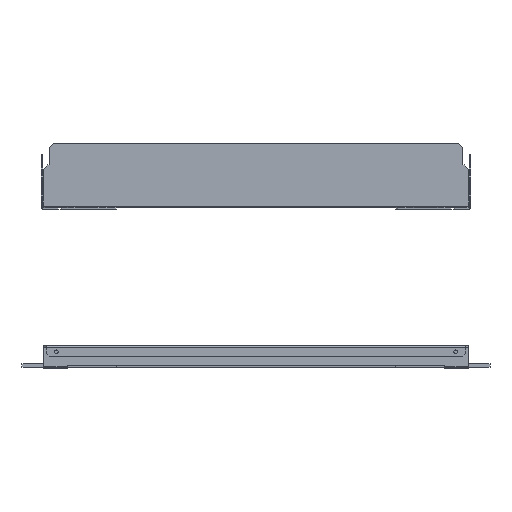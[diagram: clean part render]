
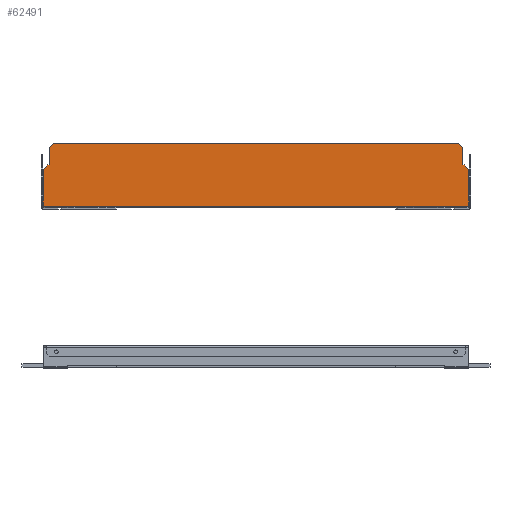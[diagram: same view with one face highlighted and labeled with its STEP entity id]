
A CAD part, front view. The second image highlights one B-rep face of the part: STEP entity #62491.
In plain terms, the highlighted planar face has unit normal (0, -1, 0).
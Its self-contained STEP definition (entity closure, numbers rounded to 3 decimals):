
#60746=CARTESIAN_POINT(' ',(247.5,-1.5,0.6));
#60747=VERTEX_POINT(' ',#60746);
#60761=CARTESIAN_POINT(' ',(247.5,-1.5,0.6));
#60766=DIRECTION(' ',(-1.,0.,0.));
#60771=VECTOR(' ',#60766,1.);
#60776=LINE('',#60761,#60771);
#60781=CARTESIAN_POINT(' ',(-247.5,-1.5,0.6));
#60782=VERTEX_POINT(' ',#60781);
#60786=EDGE_CURVE(' ',#60747,#60782,#60776,.T.);
#60926=CARTESIAN_POINT(' ',(247.5,-1.5,43.5));
#60927=VERTEX_POINT(' ',#60926);
#60941=CARTESIAN_POINT(' ',(247.5,-1.5,43.5));
#60946=DIRECTION(' ',(0.,0.,-1.));
#60951=VECTOR(' ',#60946,1.);
#60956=LINE('',#60941,#60951);
#60961=EDGE_CURVE(' ',#60927,#60747,#60956,.T.);
#62101=DIRECTION(' ',(0.,-1.,0.));
#62106=CARTESIAN_POINT(' ',(-247.5,-1.5,73.5));
#62111=DIRECTION(' ',(0.,0.,-1.));
#62116=AXIS2_PLACEMENT_3D(' ',#62106,#62101,#62111);
#62121=PLANE('NONE',#62116);
#62126=ORIENTED_EDGE(' ',*,*,#60961,.F.);
#62131=CARTESIAN_POINT(' ',(247.5,-1.5,43.5));
#62136=DIRECTION(' ',(-0.707,0.,0.707));
#62141=VECTOR(' ',#62136,1.);
#62146=LINE('',#62131,#62141);
#62151=CARTESIAN_POINT(' ',(242.5,-1.5,48.5));
#62152=VERTEX_POINT(' ',#62151);
#62156=EDGE_CURVE(' ',#60927,#62152,#62146,.T.);
#62161=ORIENTED_EDGE(' ',*,*,#62156,.T.);
#62166=CARTESIAN_POINT(' ',(240.5,-1.5,48.5));
#62171=DIRECTION(' ',(1.,0.,0.));
#62176=VECTOR(' ',#62171,1.);
#62181=LINE('',#62166,#62176);
#62186=CARTESIAN_POINT(' ',(240.5,-1.5,48.5));
#62187=VERTEX_POINT(' ',#62186);
#62191=EDGE_CURVE(' ',#62187,#62152,#62181,.T.);
#62196=ORIENTED_EDGE(' ',*,*,#62191,.F.);
#62201=CARTESIAN_POINT(' ',(240.5,-1.5,48.5));
#62206=DIRECTION(' ',(0.,0.,1.));
#62211=VECTOR(' ',#62206,1.);
#62216=LINE('',#62201,#62211);
#62221=CARTESIAN_POINT(' ',(240.5,-1.5,68.5));
#62222=VERTEX_POINT(' ',#62221);
#62226=EDGE_CURVE(' ',#62187,#62222,#62216,.T.);
#62231=ORIENTED_EDGE(' ',*,*,#62226,.T.);
#62236=CARTESIAN_POINT(' ',(240.5,-1.5,68.5));
#62241=DIRECTION(' ',(-0.707,0.,0.707));
#62246=VECTOR(' ',#62241,1.);
#62251=LINE('',#62236,#62246);
#62256=CARTESIAN_POINT(' ',(235.5,-1.5,73.5));
#62257=VERTEX_POINT(' ',#62256);
#62261=EDGE_CURVE(' ',#62222,#62257,#62251,.T.);
#62266=ORIENTED_EDGE(' ',*,*,#62261,.T.);
#62271=CARTESIAN_POINT(' ',(235.5,-1.5,73.5));
#62276=DIRECTION(' ',(-1.,0.,0.));
#62281=VECTOR(' ',#62276,1.);
#62286=LINE('',#62271,#62281);
#62291=CARTESIAN_POINT(' ',(-235.5,-1.5,73.5));
#62292=VERTEX_POINT(' ',#62291);
#62296=EDGE_CURVE(' ',#62257,#62292,#62286,.T.);
#62301=ORIENTED_EDGE(' ',*,*,#62296,.T.);
#62306=CARTESIAN_POINT(' ',(-235.5,-1.5,73.5));
#62311=DIRECTION(' ',(-0.707,0.,-0.707));
#62316=VECTOR(' ',#62311,1.);
#62321=LINE('',#62306,#62316);
#62326=CARTESIAN_POINT(' ',(-240.5,-1.5,68.5));
#62327=VERTEX_POINT(' ',#62326);
#62331=EDGE_CURVE(' ',#62292,#62327,#62321,.T.);
#62336=ORIENTED_EDGE(' ',*,*,#62331,.T.);
#62341=CARTESIAN_POINT(' ',(-240.5,-1.5,48.5));
#62346=DIRECTION(' ',(0.,0.,1.));
#62351=VECTOR(' ',#62346,1.);
#62356=LINE('',#62341,#62351);
#62361=CARTESIAN_POINT(' ',(-240.5,-1.5,48.5));
#62362=VERTEX_POINT(' ',#62361);
#62366=EDGE_CURVE(' ',#62362,#62327,#62356,.T.);
#62371=ORIENTED_EDGE(' ',*,*,#62366,.F.);
#62376=CARTESIAN_POINT(' ',(-240.5,-1.5,48.5));
#62381=DIRECTION(' ',(-1.,0.,0.));
#62386=VECTOR(' ',#62381,1.);
#62391=LINE('',#62376,#62386);
#62396=CARTESIAN_POINT(' ',(-242.5,-1.5,48.5));
#62397=VERTEX_POINT(' ',#62396);
#62401=EDGE_CURVE(' ',#62362,#62397,#62391,.T.);
#62406=ORIENTED_EDGE(' ',*,*,#62401,.T.);
#62411=CARTESIAN_POINT(' ',(-242.5,-1.5,48.5));
#62416=DIRECTION(' ',(-0.707,0.,-0.707));
#62421=VECTOR(' ',#62416,1.);
#62426=LINE('',#62411,#62421);
#62431=CARTESIAN_POINT(' ',(-247.5,-1.5,43.5));
#62432=VERTEX_POINT(' ',#62431);
#62436=EDGE_CURVE(' ',#62397,#62432,#62426,.T.);
#62441=ORIENTED_EDGE(' ',*,*,#62436,.T.);
#62446=CARTESIAN_POINT(' ',(-247.5,-1.5,0.6));
#62451=DIRECTION(' ',(0.,0.,1.));
#62456=VECTOR(' ',#62451,1.);
#62461=LINE('',#62446,#62456);
#62466=EDGE_CURVE(' ',#60782,#62432,#62461,.T.);
#62471=ORIENTED_EDGE(' ',*,*,#62466,.F.);
#62476=ORIENTED_EDGE(' ',*,*,#60786,.F.);
#62481=EDGE_LOOP(' ',(#62126,#62161,#62196,#62231,#62266,#62301,#62336,#62371,#62406,#62441,#62471,#62476));
#62486=FACE_OUTER_BOUND(' ',#62481,.T.);
#62491=ADVANCED_FACE('NONE',(#62486),#62121,.T.);
